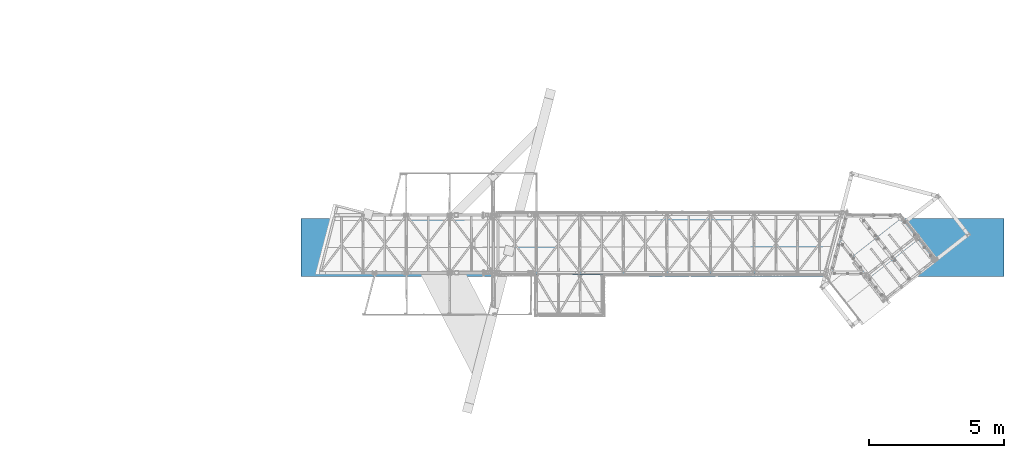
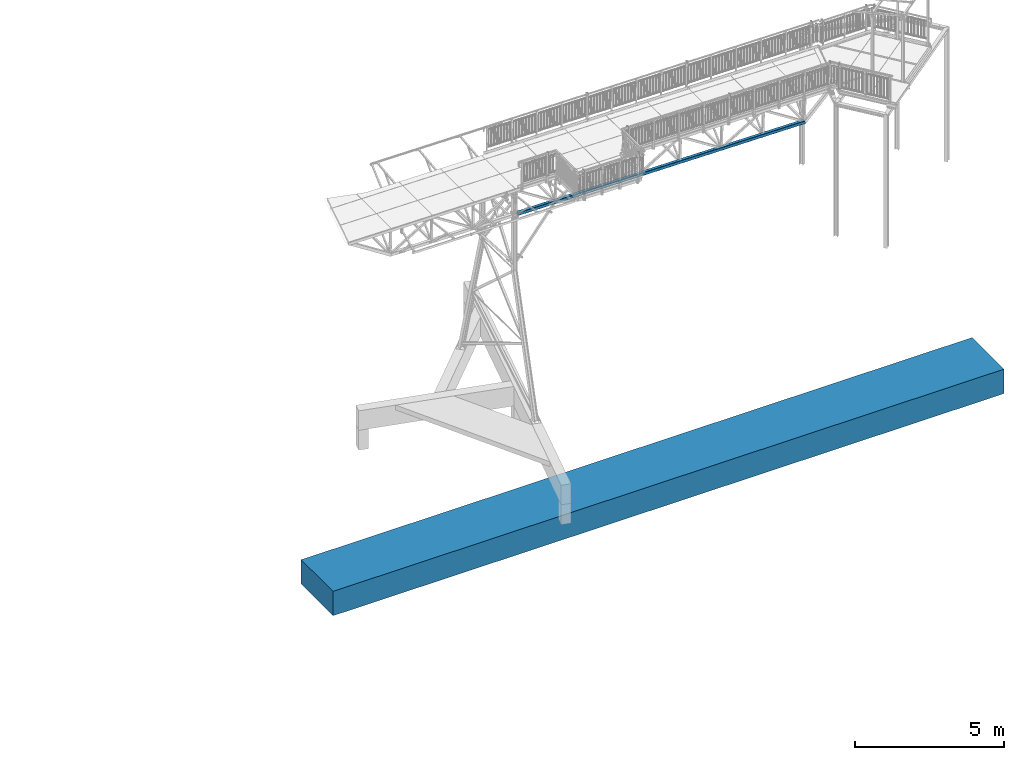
# One storey, part 58 of 169: 2 discrete accessories, 2 elements without a shape of their own.
"""IFC2X3 building model written with IfcOpenShell, lengths in millimetres."""

from ifc_helpers import new_model, si_unit, frame, origin_with_axes, origin_2d_with_axis, place, context, subcontext, project, spatial, polyline, hollow_rectangle, outline, extrude, clip, halfspace, material, type_object, element, aggregate, save


model = new_model("IFC2X3")

# Units and contexts
model_context = context("Model", 3, precision=1e-05, world=origin_with_axes())
body_context = subcontext(model_context, "Body", "Model", "MODEL_VIEW")
ifc_project = project(units=[si_unit("LENGTHUNIT", "METRE", prefix="MILLI"), si_unit("AREAUNIT", "SQUARE_METRE"), si_unit("VOLUMEUNIT", "CUBIC_METRE"), si_unit("MASSUNIT", "GRAM", prefix="KILO"), si_unit("TIMEUNIT", "SECOND"), si_unit("PLANEANGLEUNIT", "RADIAN"), si_unit("SOLIDANGLEUNIT", "STERADIAN"), si_unit("THERMODYNAMICTEMPERATUREUNIT", "DEGREE_CELSIUS"), si_unit("LUMINOUSINTENSITYUNIT", "LUMEN")], contexts=[model_context])

# Site, building, storey
site_placement = place(None, origin_with_axes())
site = spatial("IfcSite", under=ifc_project, at=site_placement, Name="Undefined", CompositionType="ELEMENT")
building_placement = place(site_placement, origin_with_axes())
building = spatial("IfcBuilding", under=site, at=building_placement, Name="Undefined", CompositionType="ELEMENT")
storey_placement = place(building_placement, origin_with_axes())
storey = spatial("IfcBuildingStorey", under=building, at=storey_placement, Name="Undefined", CompositionType="ELEMENT", Elevation=0.0)

# Assembly, discrete accessory
assembly_1_placement = place(storey_placement, origin_with_axes())
assembly_1 = element("IfcElementAssembly", 1, at=assembly_1_placement, inside=storey, Name="Steel Assembly", AssemblyPlace="NOTDEFINED", PredefinedType="RIGID_FRAME")
ifc_material_1 = material(Name="MISCELLANEOUS/DUMMY")
discrete_accessory_type_1 = type_object("IfcDiscreteAccessoryType", Name="BLACHA")
discrete_accessory_1_placement = place(assembly_1_placement, frame((-979.885836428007, 2120.71434371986, -499.586687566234), z_axis=(0.0, 0.0, 1.0), x_axis=(1.73472347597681e-18, -1.0, 0.0)))
discrete_accessory_1 = element("IfcDiscreteAccessory", 2, at=discrete_accessory_1_placement, type_object=discrete_accessory_type_1, material=ifc_material_1, Name="BLACHA", ObjectType="BL1000*2140", context=body_context, shape_type="SweptSolid", body=[
    extrude(outline(polyline([(0.0, 0.0), (2139.99999999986, 1.02329522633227e-09), (2139.99999999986, 26000.000000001), (-6.3664629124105e-12, 26000.000000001), (0.0, 0.0)])), frame((0.0, 0.0, -500.0), z_axis=(0.0, 0.0, 1.0), x_axis=(1.0, 0.0, 0.0)), (0.0, 0.0, 1.0), 1000.0),
])
aggregate(assembly_1, [discrete_accessory_1])

assembly_2_placement = place(storey_placement, origin_with_axes())
assembly_2 = element("IfcElementAssembly", 3, at=assembly_2_placement, inside=storey, Name="Steel Assembly", AssemblyPlace="NOTDEFINED", PredefinedType="RIGID_FRAME")
ifc_material_2 = material(Name="STEEL/S355")
discrete_accessory_type_2 = type_object("IfcDiscreteAccessoryType", Name="BEAM")
discrete_accessory_2_placement = place(assembly_2_placement, frame((6126.04470864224, 116.438268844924, 12876.3040597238), z_axis=(0.00186484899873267, -0.999998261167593, 4.28757666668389e-08), x_axis=(0.9999174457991, 0.00186469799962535, -0.0127131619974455)))
discrete_accessory_2 = element("IfcDiscreteAccessory", 4, at=discrete_accessory_2_placement, type_object=discrete_accessory_type_2, material=ifc_material_2, Name="BEAM", ObjectType="RHS120*4", context=body_context, shape_type="Clipping", body=[
    clip(clip(extrude(hollow_rectangle(XDim=120.0, YDim=120.0, WallThickness=4.0, InnerFilletRadius=4.0, OuterFilletRadius=8.0, at=origin_2d_with_axis()), frame((11280.5927858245, -1.81898940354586e-12, 1.3072772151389e-15), z_axis=(-1.0, -3.46944695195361e-18, -1.38777878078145e-17), x_axis=(1.73472347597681e-18, -1.0, 0.0)), (0.0, 0.0, 1.0), 11197.94), halfspace(frame((11228.881461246, 60.0000000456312, -4.53227357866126e-08), z_axis=(0.922427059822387, 0.38617136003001, -1.3947204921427e-10), x_axis=(-2.54700353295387e-10, 0.0, -1.0)), False)), halfspace(frame((109.249493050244, 2.34649633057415e-10, -59.9999999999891), z_axis=(0.999919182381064, 0.0127133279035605, 1.32546567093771e-08), x_axis=(0.012713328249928, -0.999919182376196, -9.63501842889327e-07)), True)),
])
aggregate(assembly_2, [discrete_accessory_2])

save(model, "model.ifc")
